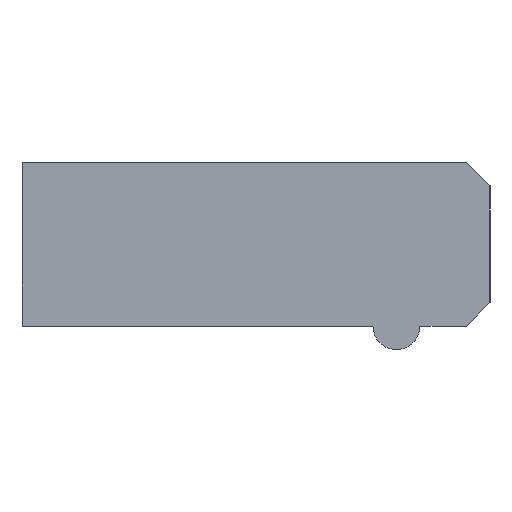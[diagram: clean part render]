
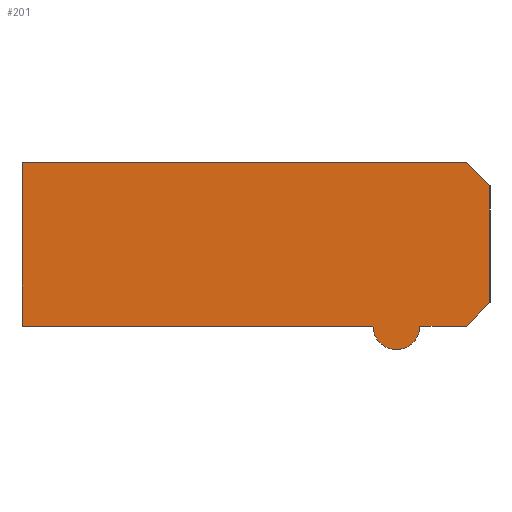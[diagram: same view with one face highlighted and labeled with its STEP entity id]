
A CAD part, left-side view. The second image highlights one B-rep face of the part: STEP entity #201.
In plain terms, the highlighted planar face has unit normal (-1, 0, 0).
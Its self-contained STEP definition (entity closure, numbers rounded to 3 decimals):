
#101 = VERTEX_POINT( '', #271 );
#115 = EDGE_CURVE( '', #161, #253, #288, .T. );
#127 = EDGE_CURVE( '', #227, #223, #301, .T. );
#135 = EDGE_CURVE( '', #251, #227, #310, .T. );
#157 = EDGE_CURVE( '', #189, #215, #335, .T. );
#161 = VERTEX_POINT( '', #340 );
#173 = EDGE_CURVE( '', #215, #161, #353, .T. );
#187 = EDGE_CURVE( '', #101, #251, #368, .T. );
#189 = VERTEX_POINT( '', #370 );
#191 = EDGE_CURVE( '', #223, #189, #372, .T. );
#195 = EDGE_CURVE( '', #253, #101, #376, .T. );
#201 = ADVANCED_FACE( '', ( #382 ), #383, .F. );
#215 = VERTEX_POINT( '', #397 );
#223 = VERTEX_POINT( '', #405 );
#227 = VERTEX_POINT( '', #410 );
#251 = VERTEX_POINT( '', #439 );
#253 = VERTEX_POINT( '', #441 );
#271 = CARTESIAN_POINT( '', ( -6., -20., 2.5 ) );
#288 = LINE( '', #469, #470 );
#301 = LINE( '', #489, #490 );
#310 = LINE( '', #500, #501 );
#335 = LINE( '', #538, #539 );
#340 = CARTESIAN_POINT( '', ( -6., 0., 3.5 ) );
#353 = LINE( '', #562, #563 );
#368 = LINE( '', #581, #582 );
#370 = CARTESIAN_POINT( '', ( -6., -15., -3.5 ) );
#372 = CIRCLE( '', #587, 1. );
#376 = LINE( '', #592, #593 );
#382 = FACE_OUTER_BOUND( '', #601, .T. );
#383 = PLANE( '', #602 );
#397 = CARTESIAN_POINT( '', ( -6., 0., -3.5 ) );
#405 = CARTESIAN_POINT( '', ( -6., -17., -3.5 ) );
#410 = CARTESIAN_POINT( '', ( -6., -19., -3.5 ) );
#439 = CARTESIAN_POINT( '', ( -6., -20., -2.5 ) );
#441 = CARTESIAN_POINT( '', ( -6., -19., 3.5 ) );
#469 = CARTESIAN_POINT( '', ( -6., 0., 3.5 ) );
#470 = VECTOR( '', #716, 1. );
#489 = CARTESIAN_POINT( '', ( -6., -19., -3.5 ) );
#490 = VECTOR( '', #730, 1. );
#500 = CARTESIAN_POINT( '', ( -6., -20., -2.5 ) );
#501 = VECTOR( '', #739, 1. );
#538 = CARTESIAN_POINT( '', ( -6., -15., -3.5 ) );
#539 = VECTOR( '', #772, 1. );
#562 = CARTESIAN_POINT( '', ( -6., 0., -3.5 ) );
#563 = VECTOR( '', #791, 1. );
#581 = CARTESIAN_POINT( '', ( -6., -20., 2.5 ) );
#582 = VECTOR( '', #805, 1. );
#587 = AXIS2_PLACEMENT_3D( '', #806, #807, #808 );
#592 = CARTESIAN_POINT( '', ( -6., -19., 3.5 ) );
#593 = VECTOR( '', #809, 1. );
#601 = EDGE_LOOP( '', ( #812, #813, #814, #815, #816, #817, #818, #819 ) );
#602 = AXIS2_PLACEMENT_3D( '', #820, #821, #822 );
#716 = DIRECTION( '', ( 0., -1., 0. ) );
#730 = DIRECTION( '', ( 0., 1., 0. ) );
#739 = DIRECTION( '', ( 0., 0.707, -0.707 ) );
#772 = DIRECTION( '', ( 0., 1., 0. ) );
#791 = DIRECTION( '', ( 0., 0., 1. ) );
#805 = DIRECTION( '', ( 0., 0., -1. ) );
#806 = CARTESIAN_POINT( '', ( -6., -16., -3.5 ) );
#807 = DIRECTION( '', ( 1., 0., 0. ) );
#808 = DIRECTION( '', ( 0., -1., 0. ) );
#809 = DIRECTION( '', ( 0., -0.707, -0.707 ) );
#812 = ORIENTED_EDGE( '', *, *, #187, .F. );
#813 = ORIENTED_EDGE( '', *, *, #195, .F. );
#814 = ORIENTED_EDGE( '', *, *, #115, .F. );
#815 = ORIENTED_EDGE( '', *, *, #173, .F. );
#816 = ORIENTED_EDGE( '', *, *, #157, .F. );
#817 = ORIENTED_EDGE( '', *, *, #191, .F. );
#818 = ORIENTED_EDGE( '', *, *, #127, .F. );
#819 = ORIENTED_EDGE( '', *, *, #135, .F. );
#820 = CARTESIAN_POINT( '', ( -6., 0., 0. ) );
#821 = DIRECTION( '', ( 1., 0., 0. ) );
#822 = DIRECTION( '', ( 0., 0., -1. ) );
